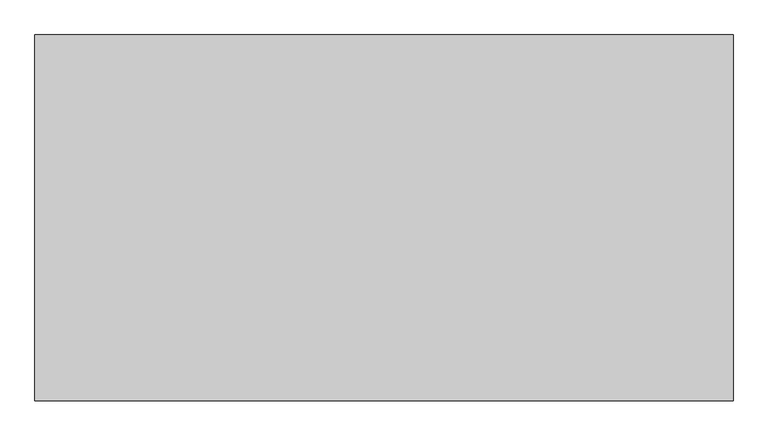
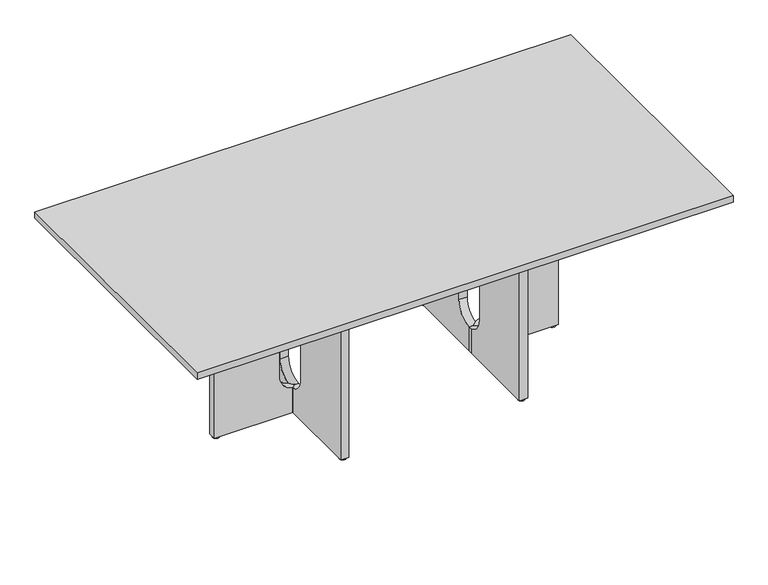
"""IFC4 building model written with IfcOpenShell, lengths in millimetres: furniture geometry, Audo Copenhagen - Androgyne - Dining Table Rectangular - 210 : Audo Copenhagen - Androgyne - Dining Table Rectangular - 210."""

from ifc_helpers import new_model, si_unit, point, frame, frame_2d, origin, origin_with_axes, place, context, project, spatial, polyline, circle_curve, ellipse_curve, trimmed, segment, composite_curve, outline, extrude, source, transform, mapped, element, save
from ifc_brep_helpers import plane_surface, revolved_surface, advanced_brep


def furniture_8d591d6a(model_context):
    return source(origin(), model_context, "Body", "SolidModel", [
        advanced_brep(
        [(366.0, -340.0, 708.0), (366.0, -16.0000002, 708.0), (349.9999977, -2.6e-06, 708.0), (334.0, -2.6e-06, 708.0), (334.0, -16.0000002, 708.0), (334.0, -340.0, 708.0), (366.0, -340.0, 7.0), (334.0, -340.0, 7.0), (334.0, -16.0000002, 7.0), (334.0, -2.6e-06, 7.0), (349.9999977, -2.6e-06, 7.0), (366.0, -16.0000002, 7.0), (366.0, -16.0000002, 108.8530999), (366.0, -70.0, 177.0), (366.0, -70.0, 538.0), (366.0, -16.0000002, 606.1469001), (334.0, -16.0000002, 606.1469001), (334.0, -70.0, 538.0), (334.0, -70.0, 177.0), (334.0, -16.0000002, 108.8530999), (349.9999977, -2.6e-06, 608.0), (349.9999977, -2.6e-06, 107.0), (334.0, -2.6e-06, 608.0), (334.0, -2.6e-06, 107.0)],
        [
            (0, 1),
            (1, 2),
            (2, 3),
            (3, 4),
            (4, 5),
            (5, 0),
            (6, 7),
            (7, 8),
            (8, 9),
            (9, 10),
            (10, 11),
            (11, 6),
            (0, 6),
            (11, 12),
            (12, 13, circle_curve(frame((366.0, 0.0, 177.0), z_axis=(-1.0, 0.0, 0.0), x_axis=(0.0, 1.0, 0.0)), 70.0)),
            (13, 14),
            (14, 15, circle_curve(frame((366.0, 0.0, 538.0), z_axis=(-1.0, 0.0, 0.0), x_axis=(0.0, 1.0, 0.0)), 70.0)),
            (15, 1),
            (4, 16),
            (16, 17, circle_curve(frame((334.0, 0.0, 538.0), z_axis=(1.0, 0.0, 0.0), x_axis=(0.0, 1.0, 0.0)), 70.0)),
            (17, 18),
            (18, 19, circle_curve(frame((334.0, 0.0, 177.0), z_axis=(1.0, 0.0, 0.0), x_axis=(0.0, 1.0, 0.0)), 70.0)),
            (19, 8),
            (7, 5),
            (15, 20, ellipse_curve(frame((349.9999951, 0.0, 538.0), z_axis=(-0.7071066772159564, -0.7071068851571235, 0.0), x_axis=(0.7071068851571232, -0.7071066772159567, 0.0)), 98.9949639, 70.0)),
            (20, 2),
            (10, 21),
            (21, 12, ellipse_curve(frame((349.9999951, 0.0, 177.0), z_axis=(-0.7071066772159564, -0.7071068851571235, 0.0), x_axis=(0.7071068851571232, -0.7071066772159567, 0.0)), 98.9949639, 70.0)),
            (3, 22),
            (22, 16, circle_curve(frame((334.0, 0.0, 538.0), z_axis=(1.0, 0.0, 0.0), x_axis=(0.0, 1.0, 0.0)), 70.0)),
            (19, 23, circle_curve(frame((334.0, 0.0, 177.0), z_axis=(1.0, 0.0, 0.0), x_axis=(0.0, 1.0, 0.0)), 70.0)),
            (23, 9),
            (20, 22),
            (23, 21),
            (18, 13),
            (17, 14),
        ],
        [
            plane_surface(frame((366.0, -444.0000002, 708.0), z_axis=(0.0, 0.0, 1.0), x_axis=(0.0, 1.0, 0.0))),
            plane_surface(frame((366.0, -444.0000002, 7.0), z_axis=(0.0, 0.0, -1.0), x_axis=(0.0, -1.0, 0.0))),
            plane_surface(frame((366.0, -340.0, 708.0), z_axis=(1.0, 0.0, 0.0), x_axis=(0.0, 0.0, -1.0))),
            plane_surface(frame((334.0, -16.0000002, 708.0), z_axis=(-1.0, 0.0, 0.0), x_axis=(0.0, 0.0, -1.0))),
            plane_surface(frame((334.0, -340.0, 708.0), z_axis=(0.0, -1.0, 0.0), x_axis=(0.0, 0.0, -1.0))),
            plane_surface(frame((366.0, -16.0000002, 708.0), z_axis=(0.7071066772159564, 0.7071068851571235, 0.0), x_axis=(0.0, 0.0, -1.0))),
            plane_surface(frame((334.0, -2.6e-06, 708.0), z_axis=(-1.0, 0.0, 0.0), x_axis=(0.0, 0.0, -1.0))),
            plane_surface(frame((349.9999977, -2.6e-06, 708.0), z_axis=(0.0, 1.0, 0.0), x_axis=(0.0, 0.0, -1.0))),
            revolved_surface(polyline([(420.0000156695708, 70.0, 177.0), (279.99997453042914, 70.0, 177.0)]), (333.9999953, 0.0, 177.0), (1.0, 0.0, 0.0)),
            plane_surface(frame((365.9999953, -70.0, 538.0), z_axis=(0.0, 1.0, 0.0), x_axis=(-1.0, 0.0, 0.0))),
            revolved_surface(polyline([(420.0000156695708, 70.0, 538.0), (279.99997453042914, 70.0, 538.0)]), (333.9999953, 0.0, 538.0), (1.0, 0.0, 0.0)),
        ],
        [
            (0, [[1, 2, 3, 4, 5, 6]]),
            (1, [[7, 8, 9, 10, 11, 12]]),
            (2, [[-1, 13, -12, 14, 15, 16, 17, 18]]),
            (3, [[-5, 19, 20, 21, 22, 23, -8, 24]]),
            (4, [[-6, -24, -7, -13]]),
            (5, [[-2, -18, 25, 26]]),
            (5, [[-11, 27, 28, -14]]),
            (6, [[-4, 29, 30, -19]]),
            (6, [[-9, -23, 31, 32]]),
            (7, [[-3, -26, 33, -29]]),
            (7, [[-10, -32, 34, -27]]),
            (8, [[35, -15, -28, -34, -31, -22]]),
            (9, [[-35, -21, 36, -16]]),
            (10, [[-36, -20, -30, -33, -25, -17]]),
        ],
    ),
        advanced_brep(
        [(366.0, 340.0, 708.0), (334.0, 340.0, 708.0), (334.0, 2.6e-06, 708.0), (349.9999977, 2.6e-06, 708.0), (366.0, 16.0000002, 708.0), (366.0, 340.0, 7.0), (366.0, 16.0000002, 7.0), (349.9999977, 2.6e-06, 7.0), (334.0, 2.6e-06, 7.0), (334.0, 340.0, 7.0), (366.0, 16.0000002, 606.1469001), (366.0, 70.0, 538.0), (366.0, 70.0, 177.0), (366.0, 16.0000002, 108.8530999), (334.0, 2.6e-06, 107.0), (334.0, 70.0, 177.0), (334.0, 70.0, 538.0), (334.0, 2.6e-06, 608.0), (349.9999977, 2.6e-06, 608.0), (349.9999977, 2.6e-06, 107.0)],
        [
            (0, 1),
            (1, 2),
            (2, 3),
            (3, 4),
            (4, 0),
            (5, 6),
            (6, 7),
            (7, 8),
            (8, 9),
            (9, 5),
            (4, 10),
            (10, 11, circle_curve(frame((366.0, 0.0, 538.0), z_axis=(-1.0, 0.0, 0.0), x_axis=(0.0, -1.0, 0.0)), 70.0)),
            (11, 12),
            (12, 13, circle_curve(frame((366.0, 0.0, 177.0), z_axis=(-1.0, 0.0, 0.0), x_axis=(0.0, -1.0, 0.0)), 70.0)),
            (13, 6),
            (5, 0),
            (1, 9),
            (8, 14),
            (14, 15, circle_curve(frame((334.0, 0.0, 177.0), z_axis=(1.0, 0.0, 0.0), x_axis=(0.0, -1.0, 0.0)), 70.0)),
            (15, 16),
            (16, 17, circle_curve(frame((334.0, 0.0, 538.0), z_axis=(1.0, 0.0, 0.0), x_axis=(0.0, -1.0, 0.0)), 70.0)),
            (17, 2),
            (3, 18),
            (18, 10, ellipse_curve(frame((349.9999951, 0.0, 538.0), z_axis=(-0.7071066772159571, 0.7071068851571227, 0.0), x_axis=(0.7071068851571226, 0.7071066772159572, 0.0)), 98.9949639, 70.0)),
            (13, 19, ellipse_curve(frame((349.9999951, 0.0, 177.0), z_axis=(-0.7071066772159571, 0.7071068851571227, 0.0), x_axis=(0.7071068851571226, 0.7071066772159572, 0.0)), 98.9949639, 70.0)),
            (19, 7),
            (17, 18),
            (19, 14),
            (11, 16),
            (15, 12),
        ],
        [
            plane_surface(frame((335.0, 340.0, 708.0), z_axis=(0.0, 0.0, 1.0), x_axis=(-1.0, 0.0, 0.0))),
            plane_surface(frame((335.0, 340.0, 7.0), z_axis=(0.0, 0.0, -1.0), x_axis=(1.0, 0.0, 0.0))),
            plane_surface(frame((366.0, 16.0000002, 708.0), z_axis=(1.0, 0.0, 0.0), x_axis=(0.0, 0.0, -1.0))),
            plane_surface(frame((334.0, 340.0, 708.0), z_axis=(-1.0, 0.0, 0.0), x_axis=(0.0, 0.0, -1.0))),
            plane_surface(frame((366.0, 340.0, 708.0), z_axis=(0.0, 1.0, 0.0), x_axis=(0.0, 0.0, -1.0))),
            plane_surface(frame((349.9999977, 2.6e-06, 708.0), z_axis=(0.7071066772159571, -0.7071068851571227, 0.0), x_axis=(0.0, 0.0, -1.0))),
            plane_surface(frame((334.0, 2.6e-06, 708.0), z_axis=(0.0, -1.0, 0.0), x_axis=(0.0, 0.0, -1.0))),
            plane_surface(frame((365.9999953, 70.0, 177.0), z_axis=(0.0, -1.0, 0.0), x_axis=(-1.0, 0.0, 0.0))),
            revolved_surface(polyline([(420.00001566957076, -70.0, 177.0), (279.9999745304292, -70.0, 177.0)]), (333.9999953, 0.0, 177.0), (1.0, 0.0, 0.0)),
            revolved_surface(polyline([(420.00001566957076, -70.0, 538.0), (279.9999745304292, -70.0, 538.0)]), (333.9999953, 0.0, 538.0), (1.0, 0.0, 0.0)),
        ],
        [
            (0, [[1, 2, 3, 4, 5]]),
            (1, [[6, 7, 8, 9, 10]]),
            (2, [[-5, 11, 12, 13, 14, 15, -6, 16]]),
            (3, [[-2, 17, -9, 18, 19, 20, 21, 22]]),
            (4, [[-1, -16, -10, -17]]),
            (5, [[-4, 23, 24, -11]]),
            (5, [[-7, -15, 25, 26]]),
            (6, [[-3, -22, 27, -23]]),
            (6, [[-8, -26, 28, -18]]),
            (7, [[29, -20, 30, -13]]),
            (8, [[-30, -19, -28, -25, -14]]),
            (9, [[-29, -12, -24, -27, -21]]),
        ],
    ),
        advanced_brep(
        [(673.9999953, -16.0, 708.0), (673.9999953, 16.0, 708.0), (365.9999953, 16.0, 708.0), (349.9999977, 2.3e-06, 708.0), (365.9999953, -16.0, 708.0), (673.9999953, -16.0, 7.0), (365.9999953, -16.0, 7.0), (349.9999977, 2.3e-06, 7.0), (365.9999953, 16.0, 7.0), (673.9999953, 16.0, 7.0), (365.9999953, -16.0, 606.1469001), (419.9999953, -16.0, 538.0), (419.9999953, -16.0, 177.0), (365.9999953, -16.0, 108.8530999), (365.9999953, 16.0, 108.8530999), (419.9999953, 16.0, 177.0), (419.9999953, 16.0, 538.0), (365.9999953, 16.0, 606.1469001), (349.9999977, 2.3e-06, 608.0), (349.9999977, 2.3e-06, 107.0)],
        [
            (0, 1),
            (1, 2),
            (2, 3),
            (3, 4),
            (4, 0),
            (5, 6),
            (6, 7),
            (7, 8),
            (8, 9),
            (9, 5),
            (4, 10),
            (10, 11, circle_curve(frame((349.9999953, -16.0, 538.0), z_axis=(0.0, 1.0, 0.0), x_axis=(-1.0, 0.0, 0.0)), 70.0)),
            (11, 12),
            (12, 13, circle_curve(frame((349.9999953, -16.0, 177.0), z_axis=(0.0, 1.0, 0.0), x_axis=(-1.0, 0.0, 0.0)), 70.0)),
            (13, 6),
            (5, 0),
            (1, 9),
            (8, 14),
            (14, 15, circle_curve(frame((349.9999953, 16.0, 177.0), z_axis=(0.0, -1.0, 0.0), x_axis=(-1.0, 0.0, 0.0)), 70.0)),
            (15, 16),
            (16, 17, circle_curve(frame((349.9999953, 16.0, 538.0), z_axis=(0.0, -1.0, 0.0), x_axis=(-1.0, 0.0, 0.0)), 70.0)),
            (17, 2),
            (3, 18),
            (18, 10, ellipse_curve(frame((349.9999953, 4.7e-06, 538.0), z_axis=(0.7071068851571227, 0.7071066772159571, 0.0), x_axis=(0.7071066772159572, -0.7071068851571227, 0.0)), 98.9949639, 70.0)),
            (13, 19, ellipse_curve(frame((349.9999953, 4.7e-06, 177.0), z_axis=(0.7071068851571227, 0.7071066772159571, 0.0), x_axis=(0.7071066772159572, -0.7071068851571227, 0.0)), 98.9949639, 70.0)),
            (19, 7),
            (17, 18, ellipse_curve(frame((349.9999953, -2e-07, 538.0), z_axis=(0.7071067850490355, -0.7071067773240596, 0.0), x_axis=(-0.7071067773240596, -0.7071067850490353, 0.0)), 98.9949499, 70.0)),
            (19, 14, ellipse_curve(frame((349.9999953, -2e-07, 177.0), z_axis=(0.7071067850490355, -0.7071067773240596, 0.0), x_axis=(-0.7071067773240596, -0.7071067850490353, 0.0)), 98.9949499, 70.0)),
            (11, 16),
            (15, 12),
        ],
        [
            plane_surface(frame((673.9999953, 15.0, 708.0), z_axis=(0.0, 0.0, 1.0), x_axis=(0.0, 1.0, 0.0))),
            plane_surface(frame((673.9999953, 15.0, 7.0), z_axis=(0.0, 0.0, -1.0), x_axis=(0.0, -1.0, 0.0))),
            plane_surface(frame((365.9999953, -16.0, 708.0), z_axis=(0.0, -1.0, 0.0), x_axis=(0.0, 0.0, -1.0))),
            plane_surface(frame((673.9999953, 16.0, 708.0), z_axis=(0.0, 1.0, 0.0), x_axis=(0.0, 0.0, -1.0))),
            plane_surface(frame((673.9999953, -16.0, 708.0), z_axis=(1.0, 0.0, 0.0), x_axis=(0.0, 0.0, -1.0))),
            plane_surface(frame((349.9999977, 2.3e-06, 708.0), z_axis=(-0.7071068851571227, -0.7071066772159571, 0.0), x_axis=(0.0, 0.0, -1.0))),
            plane_surface(frame((365.9999953, 16.0, 708.0), z_axis=(-0.7071067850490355, 0.7071067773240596, 0.0), x_axis=(0.0, 0.0, -1.0))),
            plane_surface(frame((419.9999953, -16.0, 177.0), z_axis=(-1.0, 0.0, 0.0), x_axis=(0.0, 1.0, 0.0))),
            revolved_surface(polyline([(279.9999953, -70.0000158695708, 177.0), (279.9999953, 70.00002526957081, 177.0)]), (349.9999953, 16.0, 177.0), (0.0, -1.0, 0.0)),
            revolved_surface(polyline([(279.9999953, -70.0000158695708, 538.0), (279.9999953, 70.00002526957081, 538.0)]), (349.9999953, 16.0, 538.0), (0.0, -1.0, 0.0)),
        ],
        [
            (0, [[1, 2, 3, 4, 5]]),
            (1, [[6, 7, 8, 9, 10]]),
            (2, [[-5, 11, 12, 13, 14, 15, -6, 16]]),
            (3, [[-2, 17, -9, 18, 19, 20, 21, 22]]),
            (4, [[-1, -16, -10, -17]]),
            (5, [[-4, 23, 24, -11]]),
            (5, [[-7, -15, 25, 26]]),
            (6, [[-3, -22, 27, -23]]),
            (6, [[-8, -26, 28, -18]]),
            (7, [[29, -20, 30, -13]]),
            (8, [[-30, -19, -28, -25, -14]]),
            (9, [[-29, -12, -24, -27, -21]]),
        ],
    ),
        extrude(outline(composite_curve([segment(trimmed(circle_curve(frame_2d((349.9999906, 325.001531)), 12.5), [point((349.9999906, 337.501531))], [point((349.9999906, 312.501531))], False, "CARTESIAN"), True, "CONTINUOUS"), segment(trimmed(circle_curve(frame_2d((349.9999906, 325.001531)), 12.5), [point((349.9999906, 312.501531))], [point((349.9999906, 337.501531))], False, "CARTESIAN"), True, "CONTINUOUS")], self_intersect=False)), origin_with_axes(), (0.0, 0.0, 1.0), 7.0),
        extrude(outline(composite_curve([segment(trimmed(circle_curve(frame_2d((349.9999906, -325.001531)), 12.5), [point((349.9999906, -337.501531))], [point((349.9999906, -312.501531))], False, "CARTESIAN"), True, "CONTINUOUS"), segment(trimmed(circle_curve(frame_2d((349.9999906, -325.001531)), 12.5), [point((349.9999906, -312.501531))], [point((349.9999906, -337.501531))], False, "CARTESIAN"), True, "CONTINUOUS")], self_intersect=False)), origin_with_axes(), (0.0, 0.0, 1.0), 7.0),
        extrude(outline(composite_curve([segment(trimmed(circle_curve(frame_2d((659.0015265, 0.0)), 12.5), [point((671.5015265, 0.0))], [point((646.5015265, 0.0))], False, "CARTESIAN"), True, "CONTINUOUS"), segment(trimmed(circle_curve(frame_2d((659.0015265, 0.0)), 12.5), [point((646.5015265, 0.0))], [point((671.5015265, 0.0))], False, "CARTESIAN"), True, "CONTINUOUS")], self_intersect=False)), origin_with_axes(), (0.0, 0.0, 1.0), 7.0),
        advanced_brep(
        [(-365.9999953, 70.0, 177.0), (-333.9999953, 70.0, 177.0), (-334.0, 70.0, 538.0), (-365.9999953, 70.0, 538.0), (-366.0, 16.0000002, 108.8530999), (-349.9999977, 2.6e-06, 107.0), (-334.0, 2.6e-06, 107.0), (-334.0, 2.6e-06, 608.0), (-349.9999977, 2.6e-06, 608.0), (-366.0, 16.0000002, 606.1469001), (-366.0, 340.0, 708.0), (-366.0, 16.0000002, 708.0), (-349.9999977, 2.6e-06, 708.0), (-334.0, 2.6e-06, 708.0), (-334.0, 340.0, 708.0), (-366.0, 340.0, 7.0), (-334.0, 340.0, 7.0), (-334.0, 2.6e-06, 7.0), (-349.9999977, 2.6e-06, 7.0), (-366.0, 16.0000002, 7.0)],
        [
            (0, 1),
            (1, 2),
            (2, 3),
            (3, 0),
            (0, 4, circle_curve(frame((-366.0, 0.0, 177.0), z_axis=(-1.0, 0.0, 0.0), x_axis=(0.0, -1.0, 0.0)), 70.0)),
            (4, 5, ellipse_curve(frame((-349.9999951, 0.0, 177.0), z_axis=(-0.7071066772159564, -0.7071068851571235, 0.0), x_axis=(-0.7071068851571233, 0.7071066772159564, 0.0)), 98.9949639, 70.0)),
            (5, 6),
            (6, 1, circle_curve(frame((-334.0, 0.0, 177.0), z_axis=(1.0, 0.0, 0.0), x_axis=(0.0, -1.0, 0.0)), 70.0)),
            (2, 7, circle_curve(frame((-334.0, 0.0, 538.0), z_axis=(1.0, 0.0, 0.0), x_axis=(0.0, -1.0, 0.0)), 70.0)),
            (7, 8),
            (8, 9, ellipse_curve(frame((-349.9999951, 0.0, 538.0), z_axis=(-0.7071066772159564, -0.7071068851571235, 0.0), x_axis=(-0.7071068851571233, 0.7071066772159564, 0.0)), 98.9949639, 70.0)),
            (9, 3, circle_curve(frame((-366.0, 0.0, 538.0), z_axis=(-1.0, 0.0, 0.0), x_axis=(0.0, -1.0, 0.0)), 70.0)),
            (10, 11),
            (11, 12),
            (12, 13),
            (13, 14),
            (14, 10),
            (15, 16),
            (16, 17),
            (17, 18),
            (18, 19),
            (19, 15),
            (10, 15),
            (19, 4),
            (9, 11),
            (13, 7),
            (6, 17),
            (16, 14),
            (8, 12),
            (18, 5),
        ],
        [
            plane_surface(frame((-365.9999953, 70.0, 538.0), z_axis=(0.0, -1.0, 0.0), x_axis=(1.0, 0.0, 0.0))),
            revolved_surface(polyline([(-420.00001566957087, -70.0, 177.0), (-279.9999745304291, -70.0, 177.0)]), (-333.9999953, 0.0, 177.0), (-1.0, 0.0, 0.0)),
            revolved_surface(polyline([(-420.00001566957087, -70.0, 538.0), (-279.9999745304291, -70.0, 538.0)]), (-333.9999953, 0.0, 538.0), (-1.0, 0.0, 0.0)),
            plane_surface(frame((-366.0, 444.0000002, 708.0), z_axis=(0.0, 0.0, 1.0), x_axis=(0.0, -1.0, 0.0))),
            plane_surface(frame((-366.0, 444.0000002, 7.0), z_axis=(0.0, 0.0, -1.0), x_axis=(0.0, 1.0, 0.0))),
            plane_surface(frame((-366.0, 340.0, 708.0), z_axis=(-1.0, 0.0, 0.0), x_axis=(0.0, 0.0, -1.0))),
            plane_surface(frame((-334.0, 2.6e-06, 708.0), z_axis=(1.0, 0.0, 0.0), x_axis=(0.0, 0.0, -1.0))),
            plane_surface(frame((-334.0, 340.0, 708.0), z_axis=(0.0, 1.0, 0.0), x_axis=(0.0, 0.0, -1.0))),
            plane_surface(frame((-366.0, 16.0000002, 708.0), z_axis=(-0.7071066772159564, -0.7071068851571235, 0.0), x_axis=(0.0, 0.0, -1.0))),
            plane_surface(frame((-349.9999977, 2.6e-06, 708.0), z_axis=(0.0, -1.0, 0.0), x_axis=(0.0, 0.0, -1.0))),
        ],
        [
            (0, [[1, 2, 3, 4]]),
            (1, [[-1, 5, 6, 7, 8]]),
            (2, [[-3, 9, 10, 11, 12]]),
            (3, [[13, 14, 15, 16, 17]]),
            (4, [[18, 19, 20, 21, 22]]),
            (5, [[-13, 23, -22, 24, -5, -4, -12, 25]]),
            (6, [[-16, 26, -9, -2, -8, 27, -19, 28]]),
            (7, [[-17, -28, -18, -23]]),
            (8, [[-14, -25, -11, 29]]),
            (8, [[-21, 30, -6, -24]]),
            (9, [[-15, -29, -10, -26]]),
            (9, [[-20, -27, -7, -30]]),
        ],
    ),
        advanced_brep(
        [(-365.9999953, -70.0, 177.0), (-333.9999953, -70.0, 177.0), (-334.0, -16.0000002, 108.8530999), (-334.0, -2.6e-06, 107.0), (-349.9999977, -2.6e-06, 107.0), (-366.0, -16.0000002, 108.8530999), (-366.0, -70.0, 538.0), (-333.9999953, -70.0, 538.0), (-366.0, -16.0000002, 606.1469001), (-349.9999977, -2.6e-06, 608.0), (-334.0, -2.6e-06, 608.0), (-334.0, -16.0000002, 606.1469001), (-366.0, -340.0, 708.0), (-334.0, -340.0, 708.0), (-334.0, -16.0000002, 708.0), (-334.0, -2.6e-06, 708.0), (-349.9999977, -2.6e-06, 708.0), (-366.0, -16.0000002, 708.0), (-366.0, -340.0, 7.0), (-366.0, -16.0000002, 7.0), (-349.9999977, -2.6e-06, 7.0), (-334.0, -2.6e-06, 7.0), (-334.0, -16.0000002, 7.0), (-334.0, -340.0, 7.0)],
        [
            (0, 1),
            (1, 2, circle_curve(frame((-334.0, 0.0, 177.0), z_axis=(1.0, 0.0, 0.0), x_axis=(0.0, 1.0, 0.0)), 70.0)),
            (2, 3, circle_curve(frame((-334.0, 0.0, 177.0), z_axis=(1.0, 0.0, 0.0), x_axis=(0.0, 1.0, 0.0)), 70.0)),
            (3, 4),
            (4, 5, ellipse_curve(frame((-349.9999951, 0.0, 177.0), z_axis=(-0.7071066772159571, 0.7071068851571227, 0.0), x_axis=(-0.7071068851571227, -0.7071066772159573, 0.0)), 98.9949639, 70.0)),
            (5, 0, circle_curve(frame((-366.0, 0.0, 177.0), z_axis=(-1.0, 0.0, 0.0), x_axis=(0.0, 1.0, 0.0)), 70.0)),
            (0, 6),
            (6, 7),
            (7, 1),
            (6, 8, circle_curve(frame((-366.0, 0.0, 538.0), z_axis=(-1.0, 0.0, 0.0), x_axis=(0.0, 1.0, 0.0)), 70.0)),
            (8, 9, ellipse_curve(frame((-349.9999951, 0.0, 538.0), z_axis=(-0.7071066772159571, 0.7071068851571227, 0.0), x_axis=(-0.7071068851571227, -0.7071066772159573, 0.0)), 98.9949639, 70.0)),
            (9, 10),
            (10, 11, circle_curve(frame((-334.0, 0.0, 538.0), z_axis=(1.0, 0.0, 0.0), x_axis=(0.0, 1.0, 0.0)), 70.0)),
            (11, 7, circle_curve(frame((-334.0, 0.0, 538.0), z_axis=(1.0, 0.0, 0.0), x_axis=(0.0, 1.0, 0.0)), 70.0)),
            (12, 13),
            (13, 14),
            (14, 15),
            (15, 16),
            (16, 17),
            (17, 12),
            (18, 19),
            (19, 20),
            (20, 21),
            (21, 22),
            (22, 23),
            (23, 18),
            (17, 8),
            (5, 19),
            (18, 12),
            (13, 23),
            (22, 2),
            (11, 14),
            (16, 9),
            (4, 20),
            (10, 15),
            (21, 3),
        ],
        [
            revolved_surface(polyline([(-420.00001566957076, 70.0, 177.0), (-279.9999745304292, 70.0, 177.0)]), (-333.9999953, 0.0, 177.0), (-1.0, 0.0, 0.0)),
            plane_surface(frame((-365.9999953, -70.0, 177.0), z_axis=(0.0, 1.0, 0.0), x_axis=(1.0, 0.0, 0.0))),
            revolved_surface(polyline([(-420.00001566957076, 70.0, 538.0), (-279.9999745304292, 70.0, 538.0)]), (-333.9999953, 0.0, 538.0), (-1.0, 0.0, 0.0)),
            plane_surface(frame((-335.0, -340.0, 708.0), z_axis=(0.0, 0.0, 1.0), x_axis=(1.0, 0.0, 0.0))),
            plane_surface(frame((-335.0, -340.0, 7.0), z_axis=(0.0, 0.0, -1.0), x_axis=(-1.0, 0.0, 0.0))),
            plane_surface(frame((-366.0, -16.0000002, 708.0), z_axis=(-1.0, 0.0, 0.0), x_axis=(0.0, 0.0, -1.0))),
            plane_surface(frame((-334.0, -340.0, 708.0), z_axis=(1.0, 0.0, 0.0), x_axis=(0.0, 0.0, -1.0))),
            plane_surface(frame((-366.0, -340.0, 708.0), z_axis=(0.0, -1.0, 0.0), x_axis=(0.0, 0.0, -1.0))),
            plane_surface(frame((-349.9999977, -2.6e-06, 708.0), z_axis=(-0.7071066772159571, 0.7071068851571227, 0.0), x_axis=(0.0, 0.0, -1.0))),
            plane_surface(frame((-334.0, -16.0000002, 708.0), z_axis=(1.0, 0.0, 0.0), x_axis=(0.0, 0.0, -1.0))),
            plane_surface(frame((-334.0, -2.6e-06, 708.0), z_axis=(0.0, 1.0, 0.0), x_axis=(0.0, 0.0, -1.0))),
        ],
        [
            (0, [[1, 2, 3, 4, 5, 6]]),
            (1, [[-1, 7, 8, 9]]),
            (2, [[-8, 10, 11, 12, 13, 14]]),
            (3, [[15, 16, 17, 18, 19, 20]]),
            (4, [[21, 22, 23, 24, 25, 26]]),
            (5, [[-20, 27, -10, -7, -6, 28, -21, 29]]),
            (6, [[-16, 30, -25, 31, -2, -9, -14, 32]]),
            (7, [[-15, -29, -26, -30]]),
            (8, [[-19, 33, -11, -27]]),
            (8, [[-22, -28, -5, 34]]),
            (9, [[-17, -32, -13, 35]]),
            (9, [[-24, 36, -3, -31]]),
            (10, [[-18, -35, -12, -33]]),
            (10, [[-23, -34, -4, -36]]),
        ],
    ),
        extrude(outline(composite_curve([segment(trimmed(circle_curve(frame_2d((-349.9999906, 325.001531)), 12.5), [point((-349.9999906, 337.501531))], [point((-349.9999906, 312.501531))], False, "CARTESIAN"), True, "CONTINUOUS"), segment(trimmed(circle_curve(frame_2d((-349.9999906, 325.001531)), 12.5), [point((-349.9999906, 312.501531))], [point((-349.9999906, 337.501531))], False, "CARTESIAN"), True, "CONTINUOUS")], self_intersect=False)), origin_with_axes(), (0.0, 0.0, 1.0), 7.0),
        extrude(outline(composite_curve([segment(trimmed(circle_curve(frame_2d((-349.9999906, -325.001531)), 12.5), [point((-349.9999906, -337.501531))], [point((-349.9999906, -312.501531))], False, "CARTESIAN"), True, "CONTINUOUS"), segment(trimmed(circle_curve(frame_2d((-349.9999906, -325.001531)), 12.5), [point((-349.9999906, -312.501531))], [point((-349.9999906, -337.501531))], False, "CARTESIAN"), True, "CONTINUOUS")], self_intersect=False)), origin_with_axes(), (0.0, 0.0, 1.0), 7.0),
        extrude(outline(composite_curve([segment(trimmed(circle_curve(frame_2d((-659.0015265, 0.0)), 12.5), [point((-671.5015265, 0.0))], [point((-646.5015265, 0.0))], False, "CARTESIAN"), True, "CONTINUOUS"), segment(trimmed(circle_curve(frame_2d((-659.0015265, 0.0)), 12.5), [point((-646.5015265, 0.0))], [point((-671.5015265, 0.0))], False, "CARTESIAN"), True, "CONTINUOUS")], self_intersect=False)), origin_with_axes(), (0.0, 0.0, 1.0), 7.0),
        advanced_brep(
        [(-673.9999953, -16.0, 708.0), (-365.9999953, -16.0, 708.0), (-349.9999977, 2.3e-06, 708.0), (-365.9999953, 16.0, 708.0), (-673.9999953, 16.0, 708.0), (-673.9999953, -16.0, 7.0), (-673.9999953, 16.0, 7.0), (-365.9999953, 16.0, 7.0), (-349.9999977, 2.3e-06, 7.0), (-365.9999953, -16.0, 7.0), (-365.9999953, -16.0, 108.8530999), (-419.9999953, -16.0, 177.0), (-419.9999953, -16.0, 538.0), (-365.9999953, -16.0, 606.1469001), (-365.9999953, 16.0, 606.1469001), (-419.9999953, 16.0, 538.0), (-419.9999953, 16.0, 177.0), (-365.9999953, 16.0, 108.8530999), (-349.9999977, 2.3e-06, 107.0), (-349.9999977, 2.3e-06, 608.0)],
        [
            (0, 1),
            (1, 2),
            (2, 3),
            (3, 4),
            (4, 0),
            (5, 6),
            (6, 7),
            (7, 8),
            (8, 9),
            (9, 5),
            (0, 5),
            (9, 10),
            (10, 11, circle_curve(frame((-349.9999953, -16.0, 177.0), z_axis=(0.0, 1.0, 0.0), x_axis=(1.0, 0.0, 0.0)), 70.0)),
            (11, 12),
            (12, 13, circle_curve(frame((-349.9999953, -16.0, 538.0), z_axis=(0.0, 1.0, 0.0), x_axis=(1.0, 0.0, 0.0)), 70.0)),
            (13, 1),
            (3, 14),
            (14, 15, circle_curve(frame((-349.9999953, 16.0, 538.0), z_axis=(0.0, -1.0, 0.0), x_axis=(1.0, 0.0, 0.0)), 70.0)),
            (15, 16),
            (16, 17, circle_curve(frame((-349.9999953, 16.0, 177.0), z_axis=(0.0, -1.0, 0.0), x_axis=(1.0, 0.0, 0.0)), 70.0)),
            (17, 7),
            (6, 4),
            (11, 16),
            (15, 12),
            (10, 18, ellipse_curve(frame((-349.9999953, 4.7e-06, 177.0), z_axis=(0.7071068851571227, -0.7071066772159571, 0.0), x_axis=(-0.7071066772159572, -0.7071068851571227, 0.0)), 98.9949639, 70.0)),
            (18, 17, ellipse_curve(frame((-349.9999953, -2e-07, 177.0), z_axis=(0.7071067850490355, 0.7071067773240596, 0.0), x_axis=(0.7071067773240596, -0.7071067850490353, 0.0)), 98.9949499, 70.0)),
            (14, 19, ellipse_curve(frame((-349.9999953, -2e-07, 538.0), z_axis=(0.7071067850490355, 0.7071067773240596, 0.0), x_axis=(0.7071067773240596, -0.7071067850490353, 0.0)), 98.9949499, 70.0)),
            (19, 13, ellipse_curve(frame((-349.9999953, 4.7e-06, 538.0), z_axis=(0.7071068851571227, -0.7071066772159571, 0.0), x_axis=(-0.7071066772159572, -0.7071068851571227, 0.0)), 98.9949639, 70.0)),
            (19, 2),
            (8, 18),
        ],
        [
            plane_surface(frame((-793.9999953, -16.0, 708.0), z_axis=(0.0, 0.0, 1.0), x_axis=(1.0, 0.0, 0.0))),
            plane_surface(frame((-793.9999953, -16.0, 7.0), z_axis=(0.0, 0.0, -1.0), x_axis=(-1.0, 0.0, 0.0))),
            plane_surface(frame((-673.9999953, -16.0, 708.0), z_axis=(0.0, -1.0, 0.0), x_axis=(0.0, 0.0, -1.0))),
            plane_surface(frame((-365.9999953, 16.0, 708.0), z_axis=(0.0, 1.0, 0.0), x_axis=(0.0, 0.0, -1.0))),
            plane_surface(frame((-673.9999953, 16.0, 708.0), z_axis=(-1.0, 0.0, 0.0), x_axis=(0.0, 0.0, -1.0))),
            plane_surface(frame((-419.9999953, -16.0, 538.0), z_axis=(1.0, 0.0, 0.0), x_axis=(0.0, 1.0, 0.0))),
            revolved_surface(polyline([(-279.9999953, -70.0000158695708, 177.0), (-279.9999953, 70.00002526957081, 177.0)]), (-349.9999953, 16.0, 177.0), (0.0, -1.0, 0.0)),
            revolved_surface(polyline([(-279.9999953, -70.0000158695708, 538.0), (-279.9999953, 70.00002526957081, 538.0)]), (-349.9999953, 16.0, 538.0), (0.0, -1.0, 0.0)),
            plane_surface(frame((-365.9999953, -16.0, 708.0), z_axis=(0.7071068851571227, -0.7071066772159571, 0.0), x_axis=(0.0, 0.0, -1.0))),
            plane_surface(frame((-349.9999977, 2.3e-06, 708.0), z_axis=(0.7071067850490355, 0.7071067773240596, 0.0), x_axis=(0.0, 0.0, -1.0))),
        ],
        [
            (0, [[1, 2, 3, 4, 5]]),
            (1, [[6, 7, 8, 9, 10]]),
            (2, [[-1, 11, -10, 12, 13, 14, 15, 16]]),
            (3, [[-4, 17, 18, 19, 20, 21, -7, 22]]),
            (4, [[-5, -22, -6, -11]]),
            (5, [[23, -19, 24, -14]]),
            (6, [[-23, -13, 25, 26, -20]]),
            (7, [[-24, -18, 27, 28, -15]]),
            (8, [[-2, -16, -28, 29]]),
            (8, [[-9, 30, -25, -12]]),
            (9, [[-3, -29, -27, -17]]),
            (9, [[-8, -21, -26, -30]]),
        ],
    ),
        extrude(outline(polyline([(-1050.0, 550.0), (1050.0, 550.0), (1050.0, -550.0), (-1050.0, -550.0), (-1050.0, 550.0)])), frame((0.0, 0.0, 708.0), z_axis=(0.0, 0.0, 1.0), x_axis=(1.0, 0.0, 0.0)), (0.0, 0.0, 1.0), 25.0),
    ])


if __name__ == "__main__":
    model = new_model("IFC4")
    model_context = context("Model", 3, world=origin())
    ifc_project = project(units=[si_unit("LENGTHUNIT", "METRE", prefix="MILLI")], contexts=[model_context])
    site = spatial("IfcSite", under=ifc_project)
    building = spatial("IfcBuilding", under=site)
    placement = place(None, origin())
    furniture_shape = furniture_8d591d6a(model_context)
    element("IfcFurniture", 1, ObjectType="Audo Copenhagen - Androgyne - Dining Table Rectangular - 210 : Audo Copenhagen - Androgyne - Dining Table Rectangular - 210", at=placement, inside=building, context=model_context, shape_type="MappedRepresentation", body=[
        mapped(furniture_shape, transform((0.0, 0.0, 0.0), x_axis=(1.0, 0.0, 0.0), y_axis=(0.0, 1.0, 0.0), z_axis=(0.0, 0.0, 1.0))),
    ])
    save(model, "model.ifc")
